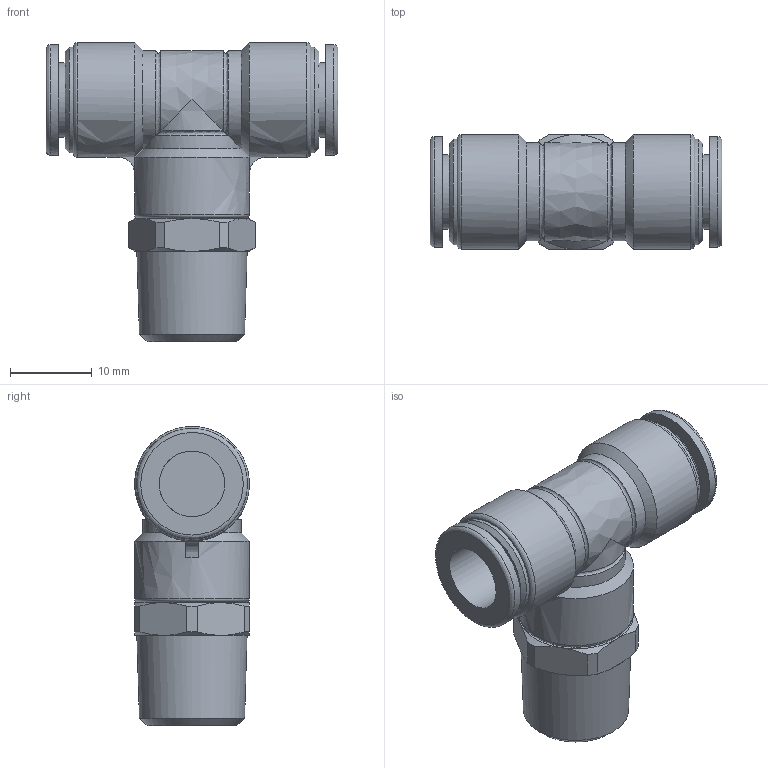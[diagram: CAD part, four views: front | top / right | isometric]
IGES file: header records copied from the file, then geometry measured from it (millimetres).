
Global section: file name: [09] FS8-02MT FS8-02MTW; native system: Autodesk Inventor 2014; preprocessor: unknown; author: kazuhiro.t; date: 20130806.165309; units: millimetre
Bounding box: 35.6 x 14 x 36.5 mm (x, y, z)
Volume: 6859.8 mm3; surface area: 3884 mm2
Topology: 1 solids, 1 shells, 86 faces, 202 edges, 128 vertices
Faces by surface type: bspline 86
